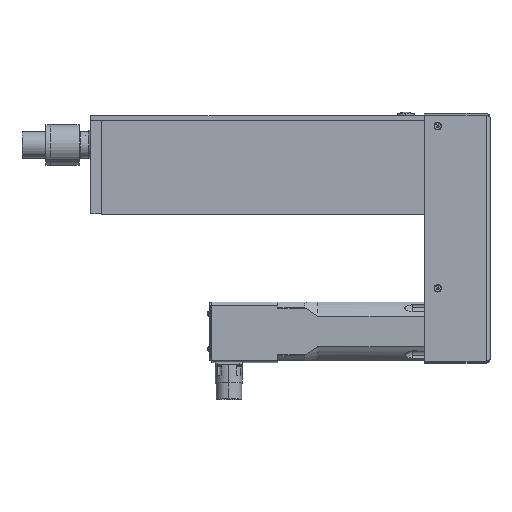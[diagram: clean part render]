
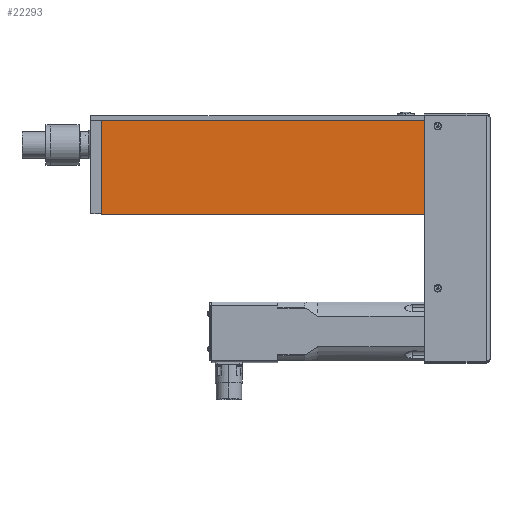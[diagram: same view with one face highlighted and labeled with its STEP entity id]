
A CAD part, top view. The second image highlights one B-rep face of the part: STEP entity #22293.
In plain terms, the highlighted planar face has unit normal (0, 0, 1).
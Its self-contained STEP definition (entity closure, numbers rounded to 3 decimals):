
#926 = EDGE_CURVE ( 'NONE', #52739, #56357, #30289, .T. ) ;
#2641 = CARTESIAN_POINT ( 'NONE',  ( 206.999, -28.121, 45.682 ) ) ;
#3851 = EDGE_CURVE ( 'NONE', #56357, #42647, #39227, .T. ) ;
#4749 = CARTESIAN_POINT ( 'NONE',  ( -96.001, -28.121, 45.682 ) ) ;
#5501 = VECTOR ( 'NONE', #41928, 1000. ) ;
#6460 = CARTESIAN_POINT ( 'NONE',  ( -96.001, -28.121, 45.682 ) ) ;
#9292 = VECTOR ( 'NONE', #56105, 1000. ) ;
#9773 = DIRECTION ( 'NONE',  ( -1., 0., 0. ) ) ;
#11910 = ORIENTED_EDGE ( 'NONE', *, *, #48123, .T. ) ;
#13891 = ORIENTED_EDGE ( 'NONE', *, *, #3851, .T. ) ;
#13925 = CARTESIAN_POINT ( 'NONE',  ( -96.001, 59.379, 45.682 ) ) ;
#14321 = CARTESIAN_POINT ( 'NONE',  ( 206.999, 59.379, 45.682 ) ) ;
#14622 = AXIS2_PLACEMENT_3D ( 'NONE', #29521, #59083, #9773 ) ;
#15084 = VECTOR ( 'NONE', #47561, 1000. ) ;
#16858 = CARTESIAN_POINT ( 'NONE',  ( -96.001, 59.379, 45.682 ) ) ;
#18004 = CARTESIAN_POINT ( 'NONE',  ( 206.999, -28.121, 45.682 ) ) ;
#22293 = ADVANCED_FACE ( 'NONE', ( #51117 ), #29289, .F. ) ;
#23803 = DIRECTION ( 'NONE',  ( 0., -1., 0. ) ) ;
#26297 = EDGE_CURVE ( 'NONE', #41161, #52739, #54597, .T. ) ;
#29289 = PLANE ( 'NONE',  #14622 ) ;
#29521 = CARTESIAN_POINT ( 'NONE',  ( -96.001, 59.379, 45.682 ) ) ;
#30289 = LINE ( 'NONE', #4749, #54068 ) ;
#39227 = LINE ( 'NONE', #40735, #9292 ) ;
#40735 = CARTESIAN_POINT ( 'NONE',  ( -96.001, -28.121, 45.682 ) ) ;
#41161 = VERTEX_POINT ( 'NONE', #14321 ) ;
#41928 = DIRECTION ( 'NONE',  ( -1., 0., 0. ) ) ;
#42647 = VERTEX_POINT ( 'NONE', #2641 ) ;
#47561 = DIRECTION ( 'NONE',  ( 0., 1., 0. ) ) ;
#48123 = EDGE_CURVE ( 'NONE', #42647, #41161, #60341, .T. ) ;
#48895 = ORIENTED_EDGE ( 'NONE', *, *, #926, .T. ) ;
#51117 = FACE_OUTER_BOUND ( 'NONE', #54854, .T. ) ;
#52739 = VERTEX_POINT ( 'NONE', #13925 ) ;
#54068 = VECTOR ( 'NONE', #23803, 1000. ) ;
#54597 = LINE ( 'NONE', #16858, #5501 ) ;
#54854 = EDGE_LOOP ( 'NONE', ( #48895, #13891, #11910, #63312 ) ) ;
#56105 = DIRECTION ( 'NONE',  ( 1., 0., 0. ) ) ;
#56357 = VERTEX_POINT ( 'NONE', #6460 ) ;
#59083 = DIRECTION ( 'NONE',  ( 0., 0., -1. ) ) ;
#60341 = LINE ( 'NONE', #18004, #15084 ) ;
#63312 = ORIENTED_EDGE ( 'NONE', *, *, #26297, .T. ) ;
